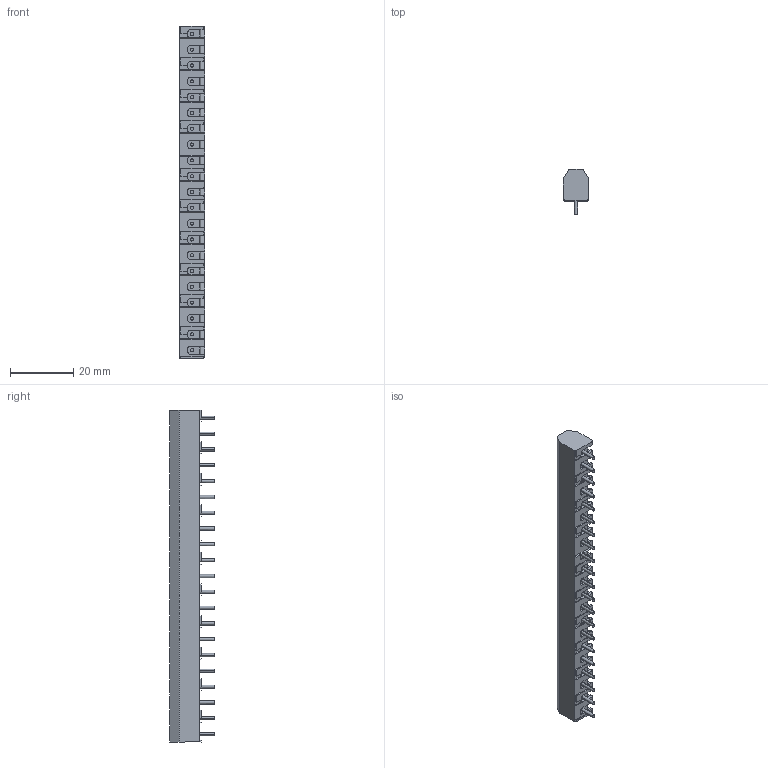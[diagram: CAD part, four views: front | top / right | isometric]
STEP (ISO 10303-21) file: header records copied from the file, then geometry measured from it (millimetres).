
FILE_DESCRIPTION (( 'STEP AP214' ), '1' );
FILE_NAME ('950-FB-21.STEP', '2008-03-31T01:49:41', ( ' ' ), ( '' ), 'SwSTEP 2.0', 'SolidWorks 2007', '' );
FILE_SCHEMA (( 'AUTOMOTIVE_DESIGN' ));
Products named in the file (1): 950-FB-21
Bounding box: 8 x 14.2 x 105 mm (x, y, z)
Volume: 5883.9 mm3; surface area: 6442.5 mm2
Topology: 1 solids, 1 shells, 1548 faces, 4540 edges, 3015 vertices
Faces by surface type: plane 1147, cylinder 346, cone 55
Entity records: 55770 total; most frequent: CARTESIAN_POINT 16110, ORIENTED_EDGE 9080, DIRECTION 7057, EDGE_CURVE 4540, LINE 3109, VECTOR 3109, VERTEX_POINT 3015, AXIS2_PLACEMENT_3D 1974
